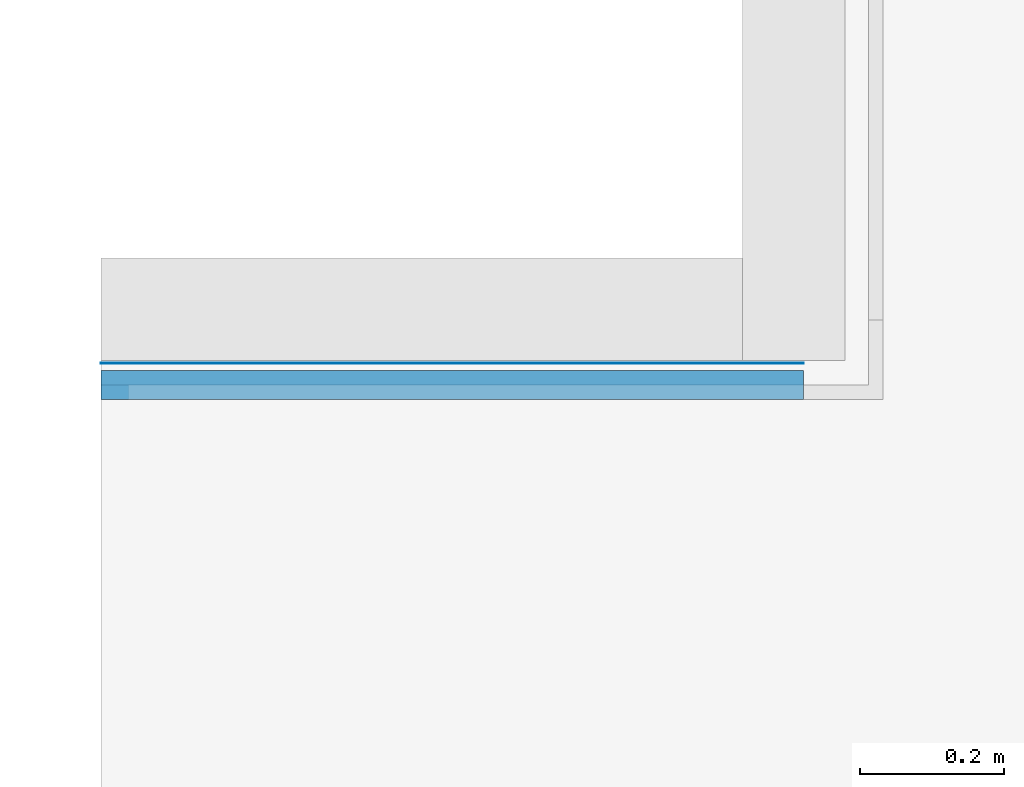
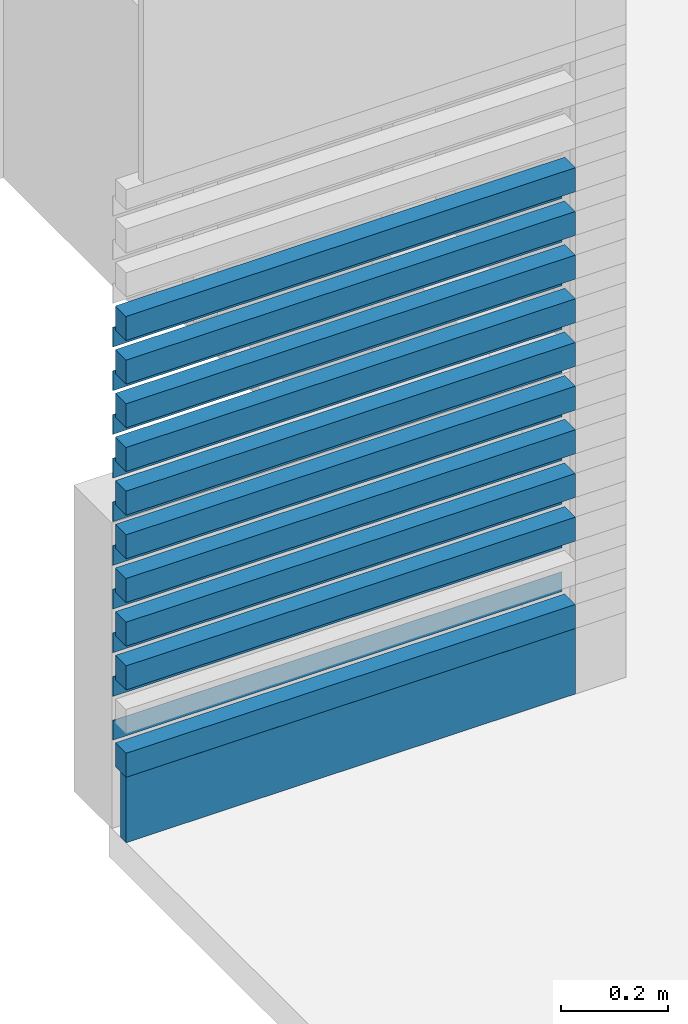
# One storey, part 14 of 18: 21 plates, 1 element without a shape of its own.
"""IFC2X3 building model written with IfcOpenShell, lengths in millimetres."""

import ifcopenshell
import ifcopenshell.guid

model = None  # the IFC model being written
_history = None  # IfcOwnerHistory: only IFC2X3 demands one
_inside = {}  # id of a spatial element -> (the spatial element, [elements in it])
_under = {}  # id of a project, library or spatial element -> (it, [spatial elements below it])
_declared = {}  # id of a project -> (the project, [libraries it declares])
_typed = {}  # id of a type object -> (the type object, [elements of that type])
_made_of = {}  # id of a material, layer set ... -> (it, [elements and type objects made of it])


def new_model(schema):
    """Start an empty IFC model of exactly this schema.

    Asked for "IFC4X3", IfcOpenShell would pick the latest addendum, in which some entities
    have other attributes; the version numbers below select the first issue.
    IFC2X3 requires an IfcOwnerHistory on every rooted entity: one is made here for all.
    """
    global model, _history
    if schema == "IFC4X3":
        model = ifcopenshell.file(schema_version=(4, 3, 0, 0))
    else:
        model = ifcopenshell.file(schema=schema)
    _inside.clear()
    _under.clear()
    _declared.clear()
    _typed.clear()
    _made_of.clear()
    _history = None
    if model.schema == "IFC2X3":
        org = make("IfcOrganization", Name="unknown")
        user = make(
            "IfcPersonAndOrganization",
            ThePerson=make("IfcPerson", FamilyName="unknown"),
            TheOrganization=org,
        )
        app = make(
            "IfcApplication",
            ApplicationDeveloper=org,
            Version="unknown",
            ApplicationFullName="unknown",
            ApplicationIdentifier="unknown",
        )
        _history = make(
            "IfcOwnerHistory",
            OwningUser=user,
            OwningApplication=app,
            ChangeAction="ADDED",
            CreationDate=0,
        )
    return model


def make(cls, **values):
    """One entity of the class cls with the attributes given. An attribute that is None is left unset."""
    return model.create_entity(
        cls, **{name: value for name, value in values.items() if value is not None}
    )


def entity(cls, *values):
    """Any entity or typed value of the class cls, its attributes in the order of the schema. None: left unset."""
    e = model.create_entity(cls)
    for i, value in enumerate(values):
        if value is not None:
            e[i] = value
    return e


def rooted(cls, **values):
    """An entity with a GlobalId (a new one), such as an element, a storey or a relation."""
    return make(cls, GlobalId=ifcopenshell.guid.new(), OwnerHistory=_history, **values)


def si_unit(unit_type, name, prefix=None):
    """IfcSIUnit, for example si_unit("LENGTHUNIT", "METRE", prefix="MILLI")."""
    return make("IfcSIUnit", UnitType=unit_type, Prefix=prefix, Name=name)


def converted_unit(unit_type, name, factor, base, dimensions=None, offset=None):
    """IfcConversionBasedUnit, such as the inch: factor (a typed value) times the base unit."""
    return make(
        "IfcConversionBasedUnit"
        if offset is None
        else "IfcConversionBasedUnitWithOffset",
        ConversionOffset=offset,
        Dimensions=None
        if dimensions is None
        else entity("IfcDimensionalExponents", *dimensions),
        UnitType=unit_type,
        Name=name,
        ConversionFactor=make(
            "IfcMeasureWithUnit", ValueComponent=factor, UnitComponent=base
        ),
    )


def derived_unit(unit_type, elements):
    """IfcDerivedUnit: a product of units, each with its exponent."""
    return make(
        "IfcDerivedUnit",
        Elements=[
            make("IfcDerivedUnitElement", Unit=unit, Exponent=power)
            for unit, power in elements
        ],
        UnitType=unit_type,
    )


def assignment(units):
    """IfcUnitAssignment: the units of a project."""
    return None if units is None else make("IfcUnitAssignment", Units=units)


def point(xyz):
    """IfcCartesianPoint."""
    return None if xyz is None else make("IfcCartesianPoint", Coordinates=xyz)


def direction(xyz):
    """IfcDirection."""
    return None if xyz is None else make("IfcDirection", DirectionRatios=xyz)


def frame(location, z_axis=None, x_axis=None):
    """IfcAxis2Placement3D, a coordinate frame: its origin and axes. An axis left out is left unset."""
    return make(
        "IfcAxis2Placement3D",
        Location=point(location),
        Axis=direction(z_axis),
        RefDirection=direction(x_axis),
    )


def origin_with_axes():
    """The frame at (0, 0, 0) with the z axis (0, 0, 1) and the x axis (1, 0, 0) written out."""
    return frame((0.0, 0.0, 0.0), z_axis=(0.0, 0.0, 1.0), x_axis=(1.0, 0.0, 0.0))


def place(relative_to, where):
    """IfcLocalPlacement: puts the frame where relative to a parent placement (None: the world)."""
    return make(
        "IfcLocalPlacement", PlacementRelTo=relative_to, RelativePlacement=where
    )


def context(
    kind, dimensions, precision=None, world=None, true_north=None, identifier=None
):
    """IfcGeometricRepresentationContext, for example the 3D "Model" context."""
    return make(
        "IfcGeometricRepresentationContext",
        ContextIdentifier=identifier,
        ContextType=kind,
        CoordinateSpaceDimension=dimensions,
        Precision=precision,
        WorldCoordinateSystem=world,
        TrueNorth=true_north,
    )


def subcontext(parent, identifier, kind, view, scale=None):
    """IfcGeometricRepresentationSubContext, for example "Body" below "Model"."""
    return make(
        "IfcGeometricRepresentationSubContext",
        ContextIdentifier=identifier,
        ContextType=kind,
        ParentContext=parent,
        TargetScale=scale,
        TargetView=view,
    )


def project(units=None, contexts=None):
    """IfcProject with its units and contexts."""
    return rooted(
        "IfcProject",
        Name="project",
        RepresentationContexts=contexts,
        UnitsInContext=assignment(units),
    )


def spatial(cls, under=None, at=None, **own):
    """A site, building, storey or space (cls), placed at a placement, below another one or the project."""
    s = rooted(cls, ObjectPlacement=at, **own)
    if under is not None:
        _under.setdefault(under.id(), (under, []))[1].append(s)
    return s


def faces_of(points, faces, orient=None, outer=None):
    """IfcFace entities. A face is a list of loops; a loop is a list of indices into points, from 0.

    orient and outer hold one flag for each loop. By default every Orientation is true, the
    first loop of a face is its IfcFaceOuterBound and the others are IfcFaceBound.
    """
    made = []
    for i, loops in enumerate(faces):
        bounds = []
        for j, loop in enumerate(loops):
            is_outer = j == 0 if outer is None else outer[i][j]
            bounds.append(
                make(
                    "IfcFaceOuterBound" if is_outer else "IfcFaceBound",
                    Bound=make("IfcPolyLoop", Polygon=[points[k] for k in loop]),
                    Orientation=True if orient is None else orient[i][j],
                )
            )
        made.append(make("IfcFace", Bounds=bounds))
    return made


def faceted_brep(points, faces, orient=None, outer=None, voids=None):
    """IfcFacetedBrep: a solid bounded by flat faces; with voids (closed shells), ...WithVoids."""
    shared = [point(p) for p in points]
    hull = make("IfcClosedShell", CfsFaces=faces_of(shared, faces, orient, outer))
    if voids is None:
        return make("IfcFacetedBrep", Outer=hull)
    return make(
        "IfcFacetedBrepWithVoids",
        Outer=hull,
        Voids=[
            make(cls, CfsFaces=faces_of(shared, fs, o, b)) for cls, fs, o, b in voids
        ],
    )


def shape(context_of_items, identifier, shape_type, items):
    """IfcShapeRepresentation: the items that make up one representation, for example the "Body"."""
    return make(
        "IfcShapeRepresentation",
        ContextOfItems=context_of_items,
        RepresentationIdentifier=identifier,
        RepresentationType=shape_type,
        Items=items,
    )


def material(Name=None, Category=None):
    """IfcMaterial."""
    return make("IfcMaterial", Name=Name, Category=Category)


def made_of(thing, what):
    """Note that an element or type object is made of a material, layer set ...; save() writes the relation."""
    if what is not None:
        _made_of.setdefault(what.id(), (what, []))[1].append(thing)
    return thing


def type_object(cls, material=None, **own):
    """A type object (cls), such as IfcWallType, which elements share."""
    return made_of(rooted(cls, **own), material)


def element(
    cls,
    number,
    at=None,
    inside=None,
    cuts=None,
    type_object=None,
    material=None,
    context=None,
    identifier="Body",
    shape_type=None,
    held_by="IfcProductDefinitionShape",
    body=None,
    shapes=None,
    **own,
):
    """One element of the class cls, such as IfcWall. Its Tag is "e" and its number.

    at: its placement. inside: the storey or other place that contains it. cuts: it is an
    opening in that element (IfcRelVoidsElement). A single representation is given by context,
    identifier, shape_type and body (its items); several are given by shapes. held_by: the class
    of the entity that holds the representations. save() writes the other relations.
    """
    e = rooted(cls, Tag="e%d" % number, ObjectPlacement=at, **own)
    if body is not None:
        shapes = [shape(context, identifier, shape_type, body)]
    if shapes is not None:
        e.Representation = make(held_by, Representations=shapes)
    if inside is not None:
        _inside.setdefault(inside.id(), (inside, []))[1].append(e)
    if cuts is not None:
        rooted(
            "IfcRelVoidsElement", RelatingBuildingElement=cuts, RelatedOpeningElement=e
        )
    if type_object is not None:
        _typed.setdefault(type_object.id(), (type_object, []))[1].append(e)
    return made_of(e, material)


def aggregate(whole, parts):
    """IfcRelAggregates: a whole, such as a stair, and the parts it consists of."""
    return rooted("IfcRelAggregates", RelatingObject=whole, RelatedObjects=parts)


def save(model, path):
    """Write the relations noted so far, then the file.

    IfcRelAggregates (storeys below a building ...), IfcRelContainedInSpatialStructure (elements
    in a storey), IfcRelDefinesByType, IfcRelAssociatesMaterial and IfcRelDeclares: one each for
    every whole, place, type object, material and project.
    """
    for whole, parts in _under.values():
        aggregate(whole, parts)
    for where, things in _inside.values():
        rooted(
            "IfcRelContainedInSpatialStructure",
            RelatedElements=things,
            RelatingStructure=where,
        )
    for kind, things in _typed.values():
        rooted("IfcRelDefinesByType", RelatedObjects=things, RelatingType=kind)
    for what, things in _made_of.values():
        rooted("IfcRelAssociatesMaterial", RelatedObjects=things, RelatingMaterial=what)
    for by, libraries in _declared.values():
        rooted("IfcRelDeclares", RelatingContext=by, RelatedDefinitions=libraries)
    model.write(path)


model = new_model("IFC2X3")

# Units and contexts
model_context = context("Model", 3, precision=0.01, world=frame((0.0, 4.29681676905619e-09, 0.0)), true_north=direction((4.01073788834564e-13, 1.0)))
plan_context = context("Plan", 3, precision=0.01, world=frame((0.0, 4.29681676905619e-09, 0.0)), true_north=direction((4.01073788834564e-13, 1.0)))
body_context = subcontext(model_context, "Body", "Model", "MODEL_VIEW")
ifc_project = project(units=[converted_unit("PLANEANGLEUNIT", "DEGREE", entity("IfcPositiveLengthMeasure", 0.0174532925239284), si_unit("PLANEANGLEUNIT", "RADIAN"), dimensions=[0, 0, 0, 0, 0, 0, 0]), si_unit("AREAUNIT", "SQUARE_METRE"), si_unit("LENGTHUNIT", "METRE", prefix="MILLI"), si_unit("MASSUNIT", "GRAM", prefix="KILO"), si_unit("POWERUNIT", "WATT"), si_unit("PRESSUREUNIT", "PASCAL"), si_unit("FORCEUNIT", "NEWTON", prefix="KILO"), si_unit("ELECTRICVOLTAGEUNIT", "VOLT"), si_unit("ELECTRICCURRENTUNIT", "AMPERE"), si_unit("THERMODYNAMICTEMPERATUREUNIT", "DEGREE_CELSIUS"), si_unit("TIMEUNIT", "SECOND"), si_unit("VOLUMEUNIT", "CUBIC_METRE"), derived_unit("LINEARVELOCITYUNIT", [(si_unit("LENGTHUNIT", "METRE"), 1), (si_unit("TIMEUNIT", "SECOND"), -1)]), derived_unit("VOLUMETRICFLOWRATEUNIT", [(si_unit("VOLUMEUNIT", "CUBIC_METRE"), 1), (si_unit("TIMEUNIT", "SECOND"), -1)]), derived_unit("THERMALTRANSMITTANCEUNIT", [(si_unit("POWERUNIT", "WATT"), 1), (si_unit("THERMODYNAMICTEMPERATUREUNIT", "KELVIN"), -1), (si_unit("AREAUNIT", "SQUARE_METRE"), -1)]), derived_unit("SOUNDPRESSUREUNIT", [(si_unit("PRESSUREUNIT", "PASCAL"), 1)])], contexts=[model_context, plan_context])

# Site, building, storey
site_placement = place(None, origin_with_axes())
site = spatial("IfcSite", under=ifc_project, at=site_placement, Name="ENGM", CompositionType="ELEMENT")
building_placement = place(site_placement, origin_with_axes())
building = spatial("IfcBuilding", under=site, at=building_placement, Name="TH", CompositionType="ELEMENT")
storey_placement = place(building_placement, frame((0.0, 0.0, 210200.0), z_axis=(0.0, 0.0, 1.0), x_axis=(1.0, 0.0, 0.0)))
storey = spatial("IfcBuildingStorey", under=building, at=storey_placement, Name="Nivå F - 0,7 m", CompositionType="ELEMENT", Elevation=210200.0)

# Curtain wall, plates
curtain_wall_type = type_object("IfcCurtainWallType", PredefinedType="NOTDEFINED")
curtain_wall_placement = place(storey_placement, frame((0.0, 0.0, -210200.0), z_axis=(0.0, 0.0, 1.0), x_axis=(1.0, 0.0, 0.0)))
curtain_wall = element("IfcCurtainWall", 1, at=curtain_wall_placement, inside=storey, type_object=curtain_wall_type)
ifc_material_1 = material(Name="Metal - Steel")
plate_type_1 = type_object("IfcPlateType", Name="System Panel:A245 - Metallkasett Inv.20mm - Offset 30mm", PredefinedType="CURTAIN_PANEL", material=ifc_material_1)
plate_1_placement = place(curtain_wall_placement, frame((893499.999999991, 478322.727283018, 210200.0), z_axis=(0.0, 0.0, 1.0), x_axis=(-1.0, 0.0, 0.0)))
plate_1 = element("IfcPlate", 2, at=plate_1_placement, type_object=plate_type_1, Name="System Panel:A245 - Metallkasett Inv.20mm - Offset 30mm", ObjectType="System Panel:A245 - Metallkasett Inv.20mm - Offset 30mm", context=body_context, shape_type="Brep", body=[
    faceted_brep([(-1611.90616857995, 30.0, -2.70006239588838e-13), (-1611.90616857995, 50.0, -2.70006239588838e-13), (-2585.00000001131, 50.0, -2.70006239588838e-13), (-2585.00000001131, 30.0, -2.70006239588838e-13), (-2585.00000001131, 50.0, 150.0), (-2585.00000001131, 30.0, 150.0), (-1611.90616857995, 50.0, 150.0), (-1611.90616857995, 30.0, 150.0)], [[[0, 1, 2, 3]], [[3, 2, 4, 5]], [[6, 7, 5, 4]], [[7, 0, 3, 5]], [[1, 6, 4, 2]], [[7, 6, 1, 0]]], orient=[[False], [False], [False], [False], [False], [False]]),
])
ifc_material_2 = material(Name="T2_Tre Finerplate")
plate_type_2 = type_object("IfcPlateType", Name="System Panel:A245 - Trepanel eksisterende 2", PredefinedType="CURTAIN_PANEL", material=ifc_material_2)
plate_2_placement = place(curtain_wall_placement, frame((893499.999999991, 478322.727283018, 210550.0), z_axis=(0.0, 0.0, 1.0), x_axis=(-1.0, 0.0, 0.0)))
plate_2 = element("IfcPlate", 3, at=plate_2_placement, type_object=plate_type_2, Name="System Panel:A245 - Trepanel eksisterende 2", ObjectType="System Panel:A245 - Trepanel eksisterende 2", context=body_context, shape_type="Brep", body=[
    faceted_brep([(-1611.90616857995, 10.0, 0.0), (-1611.90616857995, 50.0, 0.0), (-2585.00000001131, 50.0, 0.0), (-2585.00000001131, 10.0, 0.0), (-2585.00000001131, 50.0, 55.0000000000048), (-2585.00000001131, 10.0, 55.0000000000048), (-1611.90616857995, 50.0, 55.0000000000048), (-1611.90616857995, 10.0, 55.0000000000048)], [[[0, 1, 2, 3]], [[3, 2, 4, 5]], [[6, 7, 5, 4]], [[7, 0, 3, 5]], [[1, 6, 4, 2]], [[7, 6, 1, 0]]], orient=[[False], [False], [False], [False], [False], [False]]),
])
plate_3_placement = place(curtain_wall_placement, frame((893499.999999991, 478322.727283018, 210650.0), z_axis=(0.0, 0.0, 1.0), x_axis=(-1.0, 0.0, 0.0)))
plate_3 = element("IfcPlate", 4, at=plate_3_placement, type_object=plate_type_2, Name="System Panel:A245 - Trepanel eksisterende 2", ObjectType="System Panel:A245 - Trepanel eksisterende 2", context=body_context, shape_type="Brep", body=[
    faceted_brep([(-1611.90616857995, 10.0, 0.0), (-1611.90616857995, 50.0, 0.0), (-2585.00000001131, 50.0, 0.0), (-2585.00000001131, 10.0, 0.0), (-2585.00000001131, 50.0, 55.0000000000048), (-2585.00000001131, 10.0, 55.0000000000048), (-1611.90616857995, 50.0, 55.0000000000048), (-1611.90616857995, 10.0, 55.0000000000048)], [[[0, 1, 2, 3]], [[3, 2, 4, 5]], [[6, 7, 5, 4]], [[7, 0, 3, 5]], [[1, 6, 4, 2]], [[7, 6, 1, 0]]], orient=[[False], [False], [False], [False], [False], [False]]),
])
plate_4_placement = place(curtain_wall_placement, frame((893499.999999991, 478322.727283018, 210750.0), z_axis=(0.0, 0.0, 1.0), x_axis=(-1.0, 0.0, 0.0)))
plate_4 = element("IfcPlate", 5, at=plate_4_placement, type_object=plate_type_2, Name="System Panel:A245 - Trepanel eksisterende 2", ObjectType="System Panel:A245 - Trepanel eksisterende 2", context=body_context, shape_type="Brep", body=[
    faceted_brep([(-1611.90616857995, 10.0, 0.0), (-1611.90616857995, 50.0, 0.0), (-2585.00000001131, 50.0, 0.0), (-2585.00000001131, 10.0, 0.0), (-2585.00000001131, 50.0, 55.0000000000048), (-2585.00000001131, 10.0, 55.0000000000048), (-1611.90616857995, 50.0, 55.0000000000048), (-1611.90616857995, 10.0, 55.0000000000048)], [[[0, 1, 2, 3]], [[3, 2, 4, 5]], [[6, 7, 5, 4]], [[7, 0, 3, 5]], [[1, 6, 4, 2]], [[7, 6, 1, 0]]], orient=[[False], [False], [False], [False], [False], [False]]),
])
plate_5_placement = place(curtain_wall_placement, frame((893499.999999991, 478322.727283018, 210850.0), z_axis=(0.0, 0.0, 1.0), x_axis=(-1.0, 0.0, 0.0)))
plate_5 = element("IfcPlate", 6, at=plate_5_placement, type_object=plate_type_2, Name="System Panel:A245 - Trepanel eksisterende 2", ObjectType="System Panel:A245 - Trepanel eksisterende 2", context=body_context, shape_type="Brep", body=[
    faceted_brep([(-1611.90616857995, 10.0, 0.0), (-1611.90616857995, 50.0, 0.0), (-2585.00000001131, 50.0, 0.0), (-2585.00000001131, 10.0, 0.0), (-2585.00000001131, 50.0, 55.0000000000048), (-2585.00000001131, 10.0, 55.0000000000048), (-1611.90616857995, 50.0, 55.0000000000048), (-1611.90616857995, 10.0, 55.0000000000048)], [[[0, 1, 2, 3]], [[3, 2, 4, 5]], [[6, 7, 5, 4]], [[7, 0, 3, 5]], [[1, 6, 4, 2]], [[7, 6, 1, 0]]], orient=[[False], [False], [False], [False], [False], [False]]),
])
plate_6_placement = place(curtain_wall_placement, frame((893499.999999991, 478322.727283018, 210950.0), z_axis=(0.0, 0.0, 1.0), x_axis=(-1.0, 0.0, 0.0)))
plate_6 = element("IfcPlate", 7, at=plate_6_placement, type_object=plate_type_2, Name="System Panel:A245 - Trepanel eksisterende 2", ObjectType="System Panel:A245 - Trepanel eksisterende 2", context=body_context, shape_type="Brep", body=[
    faceted_brep([(-1611.90616857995, 10.0, 0.0), (-1611.90616857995, 50.0, 0.0), (-2585.00000001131, 50.0, 0.0), (-2585.00000001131, 10.0, 0.0), (-2585.00000001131, 50.0, 55.0000000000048), (-2585.00000001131, 10.0, 55.0000000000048), (-1611.90616857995, 50.0, 55.0000000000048), (-1611.90616857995, 10.0, 55.0000000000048)], [[[0, 1, 2, 3]], [[3, 2, 4, 5]], [[6, 7, 5, 4]], [[7, 0, 3, 5]], [[1, 6, 4, 2]], [[7, 6, 1, 0]]], orient=[[False], [False], [False], [False], [False], [False]]),
])
plate_7_placement = place(curtain_wall_placement, frame((893499.999999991, 478322.727283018, 211050.0), z_axis=(0.0, 0.0, 1.0), x_axis=(-1.0, 0.0, 0.0)))
plate_7 = element("IfcPlate", 8, at=plate_7_placement, type_object=plate_type_2, Name="System Panel:A245 - Trepanel eksisterende 2", ObjectType="System Panel:A245 - Trepanel eksisterende 2", context=body_context, shape_type="Brep", body=[
    faceted_brep([(-1611.90616857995, 10.0, 0.0), (-1611.90616857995, 50.0, 0.0), (-2585.00000001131, 50.0, 0.0), (-2585.00000001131, 10.0, 0.0), (-2585.00000001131, 50.0, 55.0000000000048), (-2585.00000001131, 10.0, 55.0000000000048), (-1611.90616857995, 50.0, 55.0000000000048), (-1611.90616857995, 10.0, 55.0000000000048)], [[[0, 1, 2, 3]], [[3, 2, 4, 5]], [[6, 7, 5, 4]], [[7, 0, 3, 5]], [[1, 6, 4, 2]], [[7, 6, 1, 0]]], orient=[[False], [False], [False], [False], [False], [False]]),
])
plate_8_placement = place(curtain_wall_placement, frame((893499.999999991, 478322.727283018, 211150.0), z_axis=(0.0, 0.0, 1.0), x_axis=(-1.0, 0.0, 0.0)))
plate_8 = element("IfcPlate", 9, at=plate_8_placement, type_object=plate_type_2, Name="System Panel:A245 - Trepanel eksisterende 2", ObjectType="System Panel:A245 - Trepanel eksisterende 2", context=body_context, shape_type="Brep", body=[
    faceted_brep([(-1611.90616857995, 10.0, 0.0), (-1611.90616857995, 50.0, 0.0), (-2585.00000001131, 50.0, 0.0), (-2585.00000001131, 10.0, 0.0), (-2585.00000001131, 50.0, 55.0000000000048), (-2585.00000001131, 10.0, 55.0000000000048), (-1611.90616857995, 50.0, 55.0000000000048), (-1611.90616857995, 10.0, 55.0000000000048)], [[[0, 1, 2, 3]], [[3, 2, 4, 5]], [[6, 7, 5, 4]], [[7, 0, 3, 5]], [[1, 6, 4, 2]], [[7, 6, 1, 0]]], orient=[[False], [False], [False], [False], [False], [False]]),
])
plate_9_placement = place(curtain_wall_placement, frame((893499.999999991, 478322.727283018, 211250.0), z_axis=(0.0, 0.0, 1.0), x_axis=(-1.0, 0.0, 0.0)))
plate_9 = element("IfcPlate", 10, at=plate_9_placement, type_object=plate_type_2, Name="System Panel:A245 - Trepanel eksisterende 2", ObjectType="System Panel:A245 - Trepanel eksisterende 2", context=body_context, shape_type="Brep", body=[
    faceted_brep([(-1611.90616857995, 10.0, 0.0), (-1611.90616857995, 50.0, 0.0), (-2585.00000001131, 50.0, 0.0), (-2585.00000001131, 10.0, 0.0), (-2585.00000001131, 50.0, 55.0000000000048), (-2585.00000001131, 10.0, 55.0000000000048), (-1611.90616857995, 50.0, 55.0000000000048), (-1611.90616857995, 10.0, 55.0000000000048)], [[[0, 1, 2, 3]], [[3, 2, 4, 5]], [[6, 7, 5, 4]], [[7, 0, 3, 5]], [[1, 6, 4, 2]], [[7, 6, 1, 0]]], orient=[[False], [False], [False], [False], [False], [False]]),
])
plate_10_placement = place(curtain_wall_placement, frame((893499.999999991, 478322.727283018, 211350.0), z_axis=(0.0, 0.0, 1.0), x_axis=(-1.0, 0.0, 0.0)))
plate_10 = element("IfcPlate", 11, at=plate_10_placement, type_object=plate_type_2, Name="System Panel:A245 - Trepanel eksisterende 2", ObjectType="System Panel:A245 - Trepanel eksisterende 2", context=body_context, shape_type="Brep", body=[
    faceted_brep([(-1611.90616857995, 10.0, 0.0), (-1611.90616857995, 50.0, 0.0), (-2585.00000001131, 50.0, 0.0), (-2585.00000001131, 10.0, 0.0), (-2585.00000001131, 50.0, 55.0000000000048), (-2585.00000001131, 10.0, 55.0000000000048), (-1611.90616857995, 50.0, 55.0000000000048), (-1611.90616857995, 10.0, 55.0000000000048)], [[[0, 1, 2, 3]], [[3, 2, 4, 5]], [[6, 7, 5, 4]], [[7, 0, 3, 5]], [[1, 6, 4, 2]], [[7, 6, 1, 0]]], orient=[[False], [False], [False], [False], [False], [False]]),
])
plate_11_placement = place(curtain_wall_placement, frame((893499.999999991, 478322.727283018, 210350.0), z_axis=(0.0, 0.0, 1.0), x_axis=(-1.0, 0.0, 0.0)))
plate_11 = element("IfcPlate", 12, at=plate_11_placement, type_object=plate_type_2, Name="System Panel:A245 - Trepanel eksisterende 2", ObjectType="System Panel:A245 - Trepanel eksisterende 2", context=body_context, shape_type="Brep", body=[
    faceted_brep([(-1611.90616857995, 10.0, 0.0), (-1611.90616857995, 50.0, 0.0), (-2585.00000001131, 50.0, 0.0), (-2585.00000001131, 10.0, 0.0), (-2585.00000001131, 50.0, 55.0000000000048), (-2585.00000001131, 10.0, 55.0000000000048), (-1611.90616857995, 50.0, 55.0000000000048), (-1611.90616857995, 10.0, 55.0000000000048)], [[[0, 1, 2, 3]], [[3, 2, 4, 5]], [[6, 7, 5, 4]], [[7, 0, 3, 5]], [[1, 6, 4, 2]], [[7, 6, 1, 0]]], orient=[[False], [False], [False], [False], [False], [False]]),
])
ifc_material_3 = material(Name="_NSW Luftspalte")
plate_type_3 = type_object("IfcPlateType", Name="Empty System Panel:A234 - Empty System Panel", PredefinedType="CURTAIN_PANEL", material=ifc_material_3)
plate_12_placement = place(curtain_wall_placement, frame((893499.999999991, 478322.727283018, 210505.0), z_axis=(0.0, 0.0, 1.0), x_axis=(-1.0, 0.0, 0.0)))
plate_12 = element("IfcPlate", 13, at=plate_12_placement, type_object=plate_type_3, Name="Empty System Panel:A234 - Empty System Panel", ObjectType="Empty System Panel:A234 - Empty System Panel", context=body_context, shape_type="Brep", body=[
    faceted_brep([(-1611.90616857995, -0.5, 0.0), (-1611.90616857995, 0.5, 0.0), (-2585.00000001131, 0.5, 0.0), (-2585.00000001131, -0.5, 0.0), (-2585.00000001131, 0.5, 45.0000000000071), (-2585.00000001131, -0.5, 45.0000000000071), (-1611.90616857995, 0.5, 45.0000000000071), (-1611.90616857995, -0.5, 45.0000000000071)], [[[0, 1, 2, 3]], [[3, 2, 4, 5]], [[6, 7, 5, 4]], [[7, 0, 3, 5]], [[1, 6, 4, 2]], [[7, 6, 1, 0]]], orient=[[False], [False], [False], [False], [False], [False]]),
])
plate_13_placement = place(curtain_wall_placement, frame((893499.999999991, 478322.727283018, 210605.0), z_axis=(0.0, 0.0, 1.0), x_axis=(-1.0, 0.0, 0.0)))
plate_13 = element("IfcPlate", 14, at=plate_13_placement, type_object=plate_type_3, Name="Empty System Panel:A234 - Empty System Panel", ObjectType="Empty System Panel:A234 - Empty System Panel", context=body_context, shape_type="Brep", body=[
    faceted_brep([(-1611.90616857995, -0.5, 0.0), (-1611.90616857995, 0.5, 0.0), (-2585.00000001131, 0.5, 0.0), (-2585.00000001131, -0.5, 0.0), (-2585.00000001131, 0.5, 45.0000000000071), (-2585.00000001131, -0.5, 45.0000000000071), (-1611.90616857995, 0.5, 45.0000000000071), (-1611.90616857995, -0.5, 45.0000000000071)], [[[0, 1, 2, 3]], [[3, 2, 4, 5]], [[6, 7, 5, 4]], [[7, 0, 3, 5]], [[1, 6, 4, 2]], [[7, 6, 1, 0]]], orient=[[False], [False], [False], [False], [False], [False]]),
])
plate_14_placement = place(curtain_wall_placement, frame((893499.999999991, 478322.727283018, 210705.0), z_axis=(0.0, 0.0, 1.0), x_axis=(-1.0, 0.0, 0.0)))
plate_14 = element("IfcPlate", 15, at=plate_14_placement, type_object=plate_type_3, Name="Empty System Panel:A234 - Empty System Panel", ObjectType="Empty System Panel:A234 - Empty System Panel", context=body_context, shape_type="Brep", body=[
    faceted_brep([(-1611.90616857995, -0.5, 0.0), (-1611.90616857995, 0.5, 0.0), (-2585.00000001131, 0.5, 0.0), (-2585.00000001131, -0.5, 0.0), (-2585.00000001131, 0.5, 45.0000000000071), (-2585.00000001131, -0.5, 45.0000000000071), (-1611.90616857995, 0.5, 45.0000000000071), (-1611.90616857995, -0.5, 45.0000000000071)], [[[0, 1, 2, 3]], [[3, 2, 4, 5]], [[6, 7, 5, 4]], [[7, 0, 3, 5]], [[1, 6, 4, 2]], [[7, 6, 1, 0]]], orient=[[False], [False], [False], [False], [False], [False]]),
])
plate_15_placement = place(curtain_wall_placement, frame((893499.999999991, 478322.727283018, 210805.0), z_axis=(0.0, 0.0, 1.0), x_axis=(-1.0, 0.0, 0.0)))
plate_15 = element("IfcPlate", 16, at=plate_15_placement, type_object=plate_type_3, Name="Empty System Panel:A234 - Empty System Panel", ObjectType="Empty System Panel:A234 - Empty System Panel", context=body_context, shape_type="Brep", body=[
    faceted_brep([(-1611.90616857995, -0.5, 0.0), (-1611.90616857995, 0.5, 0.0), (-2585.00000001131, 0.5, 0.0), (-2585.00000001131, -0.5, 0.0), (-2585.00000001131, 0.5, 45.0000000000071), (-2585.00000001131, -0.5, 45.0000000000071), (-1611.90616857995, 0.5, 45.0000000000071), (-1611.90616857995, -0.5, 45.0000000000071)], [[[0, 1, 2, 3]], [[3, 2, 4, 5]], [[6, 7, 5, 4]], [[7, 0, 3, 5]], [[1, 6, 4, 2]], [[7, 6, 1, 0]]], orient=[[False], [False], [False], [False], [False], [False]]),
])
plate_16_placement = place(curtain_wall_placement, frame((893499.999999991, 478322.727283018, 210905.0), z_axis=(0.0, 0.0, 1.0), x_axis=(-1.0, 0.0, 0.0)))
plate_16 = element("IfcPlate", 17, at=plate_16_placement, type_object=plate_type_3, Name="Empty System Panel:A234 - Empty System Panel", ObjectType="Empty System Panel:A234 - Empty System Panel", context=body_context, shape_type="Brep", body=[
    faceted_brep([(-1611.90616857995, -0.5, 0.0), (-1611.90616857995, 0.5, 0.0), (-2585.00000001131, 0.5, 0.0), (-2585.00000001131, -0.5, 0.0), (-2585.00000001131, 0.5, 45.0000000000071), (-2585.00000001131, -0.5, 45.0000000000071), (-1611.90616857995, 0.5, 45.0000000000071), (-1611.90616857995, -0.5, 45.0000000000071)], [[[0, 1, 2, 3]], [[3, 2, 4, 5]], [[6, 7, 5, 4]], [[7, 0, 3, 5]], [[1, 6, 4, 2]], [[7, 6, 1, 0]]], orient=[[False], [False], [False], [False], [False], [False]]),
])
plate_17_placement = place(curtain_wall_placement, frame((893499.999999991, 478322.727283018, 211005.0), z_axis=(0.0, 0.0, 1.0), x_axis=(-1.0, 0.0, 0.0)))
plate_17 = element("IfcPlate", 18, at=plate_17_placement, type_object=plate_type_3, Name="Empty System Panel:A234 - Empty System Panel", ObjectType="Empty System Panel:A234 - Empty System Panel", context=body_context, shape_type="Brep", body=[
    faceted_brep([(-1611.90616857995, -0.5, 0.0), (-1611.90616857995, 0.5, 0.0), (-2585.00000001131, 0.5, 0.0), (-2585.00000001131, -0.5, 0.0), (-2585.00000001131, 0.5, 45.0000000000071), (-2585.00000001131, -0.5, 45.0000000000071), (-1611.90616857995, 0.5, 45.0000000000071), (-1611.90616857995, -0.5, 45.0000000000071)], [[[0, 1, 2, 3]], [[3, 2, 4, 5]], [[6, 7, 5, 4]], [[7, 0, 3, 5]], [[1, 6, 4, 2]], [[7, 6, 1, 0]]], orient=[[False], [False], [False], [False], [False], [False]]),
])
plate_18_placement = place(curtain_wall_placement, frame((893499.999999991, 478322.727283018, 211105.0), z_axis=(0.0, 0.0, 1.0), x_axis=(-1.0, 0.0, 0.0)))
plate_18 = element("IfcPlate", 19, at=plate_18_placement, type_object=plate_type_3, Name="Empty System Panel:A234 - Empty System Panel", ObjectType="Empty System Panel:A234 - Empty System Panel", context=body_context, shape_type="Brep", body=[
    faceted_brep([(-1611.90616857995, -0.5, 0.0), (-1611.90616857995, 0.5, 0.0), (-2585.00000001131, 0.5, 0.0), (-2585.00000001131, -0.5, 0.0), (-2585.00000001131, 0.5, 45.0000000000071), (-2585.00000001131, -0.5, 45.0000000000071), (-1611.90616857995, 0.5, 45.0000000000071), (-1611.90616857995, -0.5, 45.0000000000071)], [[[0, 1, 2, 3]], [[3, 2, 4, 5]], [[6, 7, 5, 4]], [[7, 0, 3, 5]], [[1, 6, 4, 2]], [[7, 6, 1, 0]]], orient=[[False], [False], [False], [False], [False], [False]]),
])
plate_19_placement = place(curtain_wall_placement, frame((893499.999999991, 478322.727283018, 211205.0), z_axis=(0.0, 0.0, 1.0), x_axis=(-1.0, 0.0, 0.0)))
plate_19 = element("IfcPlate", 20, at=plate_19_placement, type_object=plate_type_3, Name="Empty System Panel:A234 - Empty System Panel", ObjectType="Empty System Panel:A234 - Empty System Panel", context=body_context, shape_type="Brep", body=[
    faceted_brep([(-1611.90616857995, -0.5, 0.0), (-1611.90616857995, 0.5, 0.0), (-2585.00000001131, 0.5, 0.0), (-2585.00000001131, -0.5, 0.0), (-2585.00000001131, 0.5, 45.0000000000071), (-2585.00000001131, -0.5, 45.0000000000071), (-1611.90616857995, 0.5, 45.0000000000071), (-1611.90616857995, -0.5, 45.0000000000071)], [[[0, 1, 2, 3]], [[3, 2, 4, 5]], [[6, 7, 5, 4]], [[7, 0, 3, 5]], [[1, 6, 4, 2]], [[7, 6, 1, 0]]], orient=[[False], [False], [False], [False], [False], [False]]),
])
plate_20_placement = place(curtain_wall_placement, frame((893499.999999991, 478322.727283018, 211305.0), z_axis=(0.0, 0.0, 1.0), x_axis=(-1.0, 0.0, 0.0)))
plate_20 = element("IfcPlate", 21, at=plate_20_placement, type_object=plate_type_3, Name="Empty System Panel:A234 - Empty System Panel", ObjectType="Empty System Panel:A234 - Empty System Panel", context=body_context, shape_type="Brep", body=[
    faceted_brep([(-1611.90616857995, -0.5, 0.0), (-1611.90616857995, 0.5, 0.0), (-2585.00000001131, 0.5, 0.0), (-2585.00000001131, -0.5, 0.0), (-2585.00000001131, 0.5, 45.0000000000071), (-2585.00000001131, -0.5, 45.0000000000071), (-1611.90616857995, 0.5, 45.0000000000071), (-1611.90616857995, -0.5, 45.0000000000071)], [[[0, 1, 2, 3]], [[3, 2, 4, 5]], [[6, 7, 5, 4]], [[7, 0, 3, 5]], [[1, 6, 4, 2]], [[7, 6, 1, 0]]], orient=[[False], [False], [False], [False], [False], [False]]),
])
plate_21_placement = place(curtain_wall_placement, frame((893499.999999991, 478322.727283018, 210405.0), z_axis=(0.0, 0.0, 1.0), x_axis=(-1.0, 0.0, 0.0)))
plate_21 = element("IfcPlate", 22, at=plate_21_placement, type_object=plate_type_3, Name="Empty System Panel:A234 - Empty System Panel", ObjectType="Empty System Panel:A234 - Empty System Panel", context=body_context, shape_type="Brep", body=[
    faceted_brep([(-1611.90616857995, -0.5, 0.0), (-1611.90616857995, 0.5, 0.0), (-2585.00000001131, 0.5, 0.0), (-2585.00000001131, -0.5, 0.0), (-2585.00000001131, 0.5, 45.0000000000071), (-2585.00000001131, -0.5, 45.0000000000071), (-1611.90616857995, 0.5, 45.0000000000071), (-1611.90616857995, -0.5, 45.0000000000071)], [[[0, 1, 2, 3]], [[3, 2, 4, 5]], [[6, 7, 5, 4]], [[7, 0, 3, 5]], [[1, 6, 4, 2]], [[7, 6, 1, 0]]], orient=[[False], [False], [False], [False], [False], [False]]),
])
aggregate(curtain_wall, [plate_12, plate_2, plate_13, plate_3, plate_14, plate_4, plate_15, plate_5, plate_16, plate_6, plate_17, plate_7, plate_18, plate_8, plate_19, plate_9, plate_20, plate_10, plate_1, plate_11, plate_21])

save(model, "model.ifc")
